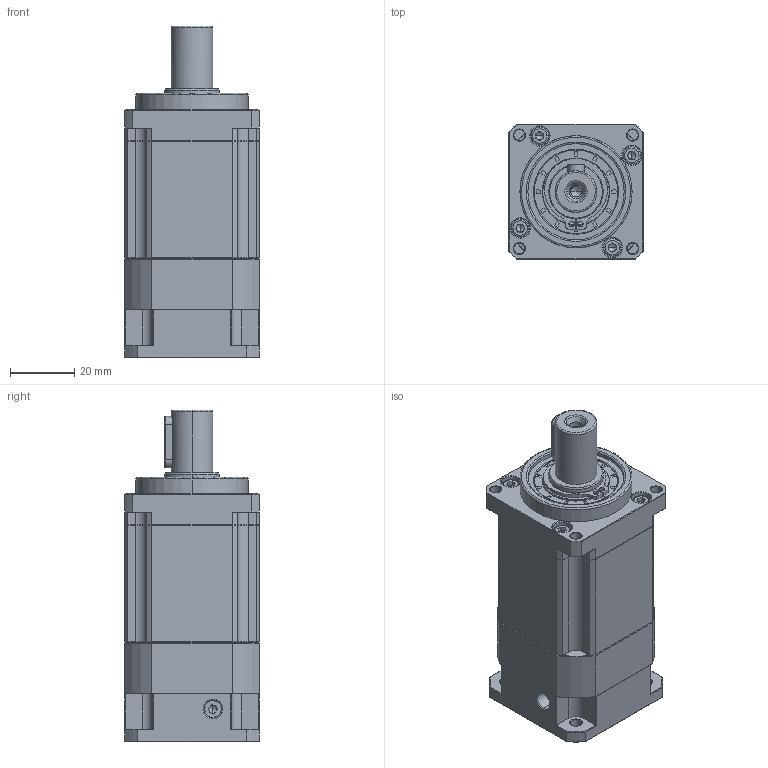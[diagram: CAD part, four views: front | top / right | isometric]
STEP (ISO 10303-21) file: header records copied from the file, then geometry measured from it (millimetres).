
FILE_DESCRIPTION (( 'STEP AP214' ), '1' );
FILE_NAME ('ZB042-D13-L2-P2-5-22-31X31-¦Õ3.5.STEP', '2023-08-15T11:57:38', ( '' ), ( '' ), 'SwSTEP 2.0', 'SolidWorks 2016', '' );
FILE_SCHEMA (( 'AUTOMOTIVE_DESIGN' ));
Length unit declared in the file: millimetre
Products named in the file (1): ZB042-D13-L2-P2-5-22-31X31-耳3.5
Bounding box: 42 x 42 x 103.5 mm (x, y, z)
Volume: 122940.9 mm3; surface area: 29419.4 mm2
Topology: 6 solids, 6 shells, 2183 faces, 5809 edges, 3725 vertices
Faces by surface type: plane 1134, bspline 397, cone 324, cylinder 307, torus 21
Entity records: 110684 total; most frequent: CARTESIAN_POINT 35009, ORIENTED_EDGE 11574, DIRECTION 9249, EDGE_CURVE 5787, LINE 3763, VECTOR 3763, VERTEX_POINT 3725, AXIS2_PLACEMENT_3D 2743
